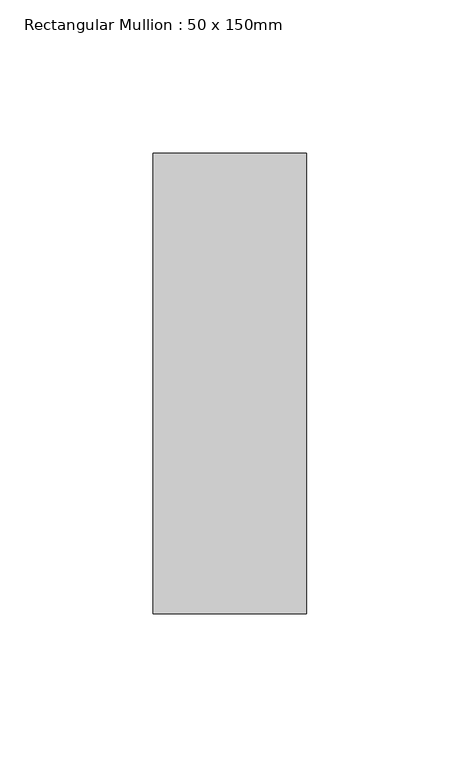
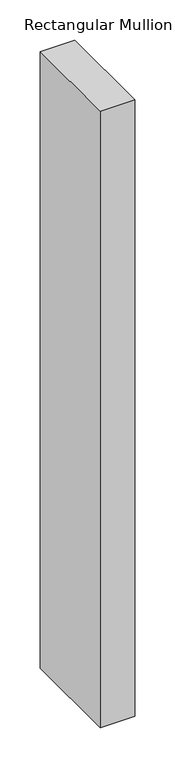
"""IFC4 building model written with IfcOpenShell, lengths in millimetres: member geometry, Rectangular Mullion : 50 x 150mm."""

from ifc_helpers import new_model, si_unit, frame, origin, place, context, project, spatial, polyline, outline, extrude, source, transform, mapped, element, save


def rectangular_mullion_50_x_150mm_a34e4002(model_context):
    return source(origin(), model_context, "Body", "SweptSolid", [
        extrude(outline(polyline([(0.0, 75.0), (0.0, -75.0), (-50.0, -75.0), (-50.0, 75.0), (0.0, 75.0)])), frame((0.0, 0.0, -940.0000023), z_axis=(0.0, 0.0, 1.0), x_axis=(1.0, 0.0, 0.0)), (0.0, 0.0, 1.0), 940.0000023),
    ])


if __name__ == "__main__":
    model = new_model("IFC4")
    model_context = context("Model", 3, world=origin())
    ifc_project = project(units=[si_unit("LENGTHUNIT", "METRE", prefix="MILLI")], contexts=[model_context])
    site = spatial("IfcSite", under=ifc_project)
    building = spatial("IfcBuilding", under=site)
    placement = place(None, origin())
    rectangular_mullion_50_x_150mm_shape = rectangular_mullion_50_x_150mm_a34e4002(model_context)
    element("IfcMember", 1, ObjectType="Rectangular Mullion : 50 x 150mm", at=placement, inside=building, context=model_context, shape_type="MappedRepresentation", body=[
        mapped(rectangular_mullion_50_x_150mm_shape, transform((0.0, 0.0, 0.0), x_axis=(1.0, 0.0, 0.0), y_axis=(0.0, 1.0, 0.0), z_axis=(0.0, 0.0, 1.0))),
    ])
    save(model, "model.ifc")
